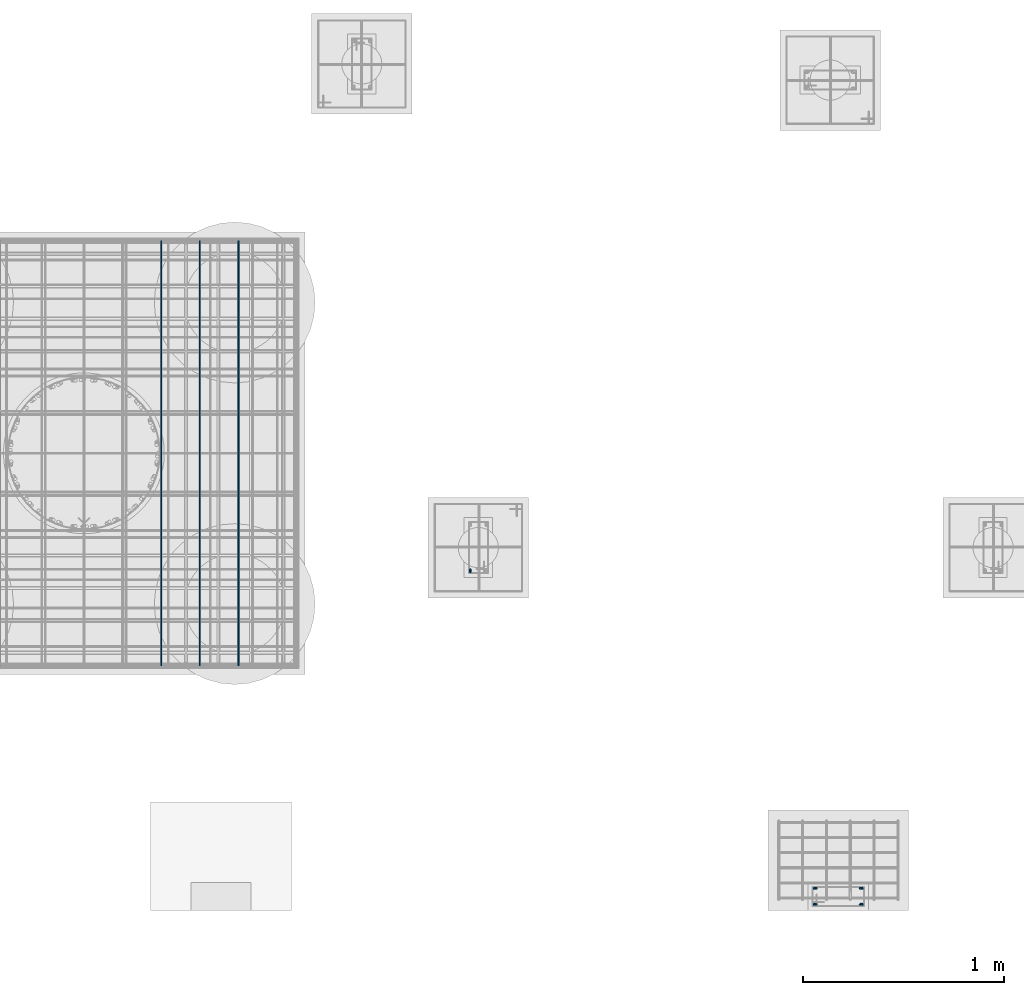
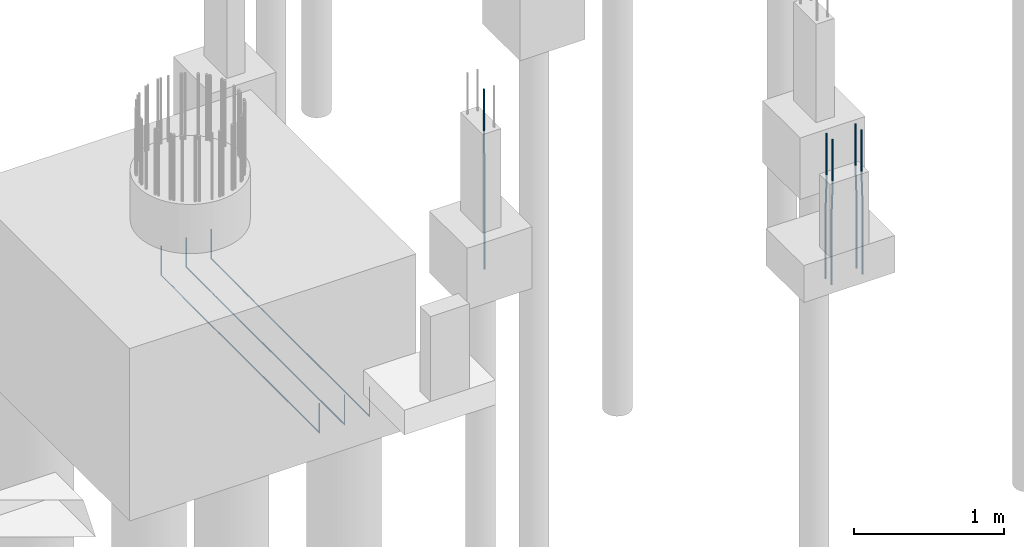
# One storey, part 14 of 119: 8 reinforcing bars.
"""IFC4 building model written with IfcOpenShell, lengths in centimetres."""

from ifc_helpers import new_model, entity, si_unit, derived_unit, frame, origin_with_axes, place, context, project, spatial, element, save


model = new_model("IFC4")

# Units and contexts
model_context = context("Model", 3, precision=1e-05, world=origin_with_axes(), identifier="Body")
ifc_project = project(units=[si_unit("LENGTHUNIT", "METRE", prefix="CENTI"), si_unit("VOLUMEUNIT", "CUBIC_METRE"), si_unit("AREAUNIT", "SQUARE_METRE"), si_unit("POWERUNIT", "WATT"), si_unit("LUMINOUSFLUXUNIT", "LUMEN"), si_unit("ELECTRICCURRENTUNIT", "AMPERE"), si_unit("PRESSUREUNIT", "PASCAL", prefix="KILO"), si_unit("MASSUNIT", "GRAM", prefix="KILO"), si_unit("PLANEANGLEUNIT", "RADIAN"), derived_unit("VOLUMETRICFLOWRATEUNIT", [(si_unit("LENGTHUNIT", "METRE"), 3), (si_unit("TIMEUNIT", "SECOND"), -1)])], contexts=[model_context])

# Site, building, storey
site_placement = place(None, frame((-4000.0, 0.0, 0.0), z_axis=(0.0, 0.0, 1.0), x_axis=(1.0, 0.0, 0.0)))
site = spatial("IfcSite", under=ifc_project, at=site_placement, Name="PADRÃO")
building_placement = place(site_placement, frame((0.0, 0.0, -14.0)))
building = spatial("IfcBuilding", under=site, at=building_placement, Name="CRECHE PRÉ-ESCOLA TIPO 2")
storey_placement = place(building_placement, origin_with_axes())
storey = spatial("IfcBuildingStorey", under=building, at=storey_placement, Name="FUNDAÇÃO", CompositionType="ELEMENT", Elevation=-14.0)

# Reinforcing bars
for number, where, z_axis, x_axis, name in (
    (1, (2462.18909090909, 229.39, -139.213841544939), (0.0, 0.0, 1.0), (1.0, 0.0, 0.0), "P151 - Blocos (distribuição)"),
    (2, (2442.96181818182, 229.39, -139.213841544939), (0.0, 0.0, 1.0), (1.0, 0.0, 0.0), "P151 - Blocos (distribuição)"),
    (3, (2423.73454545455, 229.39, -139.213841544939), (0.0, 0.0, 1.0), (1.0, 0.0, 0.0), "P151 - Blocos (distribuição)"),
):
    element("IfcReinforcingBar", number, at=place(storey_placement, frame(where, z_axis=z_axis, x_axis=x_axis)), inside=storey, Name=name, BarLength=0.0, CrossSectionArea=3.1172453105e-05, NominalDiameter=0.63, PredefinedType="MAIN", context=model_context, shape_type="AdvancedSweptSolid", body=[
        entity("IfcSweptDiskSolid", entity("IfcCompositeCurve", [entity("IfcCompositeCurveSegment", "CONTINUOUS", True, entity("IfcPolyline", [entity("IfcCartesianPoint", [0.0, 105.435, 0.0]), entity("IfcCartesianPoint", [0.0, 105.435, -23.7311584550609])])), entity("IfcCompositeCurveSegment", "CONTINUOUS", True, entity("IfcPolyline", [entity("IfcCartesianPoint", [0.0, 105.435, -23.7311584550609]), entity("IfcCartesianPoint", [0.0, -105.435, -23.7311584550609])])), entity("IfcCompositeCurveSegment", "CONTINUOUS", True, entity("IfcPolyline", [entity("IfcCartesianPoint", [0.0, -105.435, -23.7311584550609]), entity("IfcCartesianPoint", [0.0, -105.435, 0.0])]))], False), 0.315),
    ])
reinforcing_bar_placement = place(storey_placement, frame((2577.46, 171.0, 33.3573001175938), z_axis=(0.0, 0.0, 1.0), x_axis=(1.0, 0.0, 0.0)))
element("IfcReinforcingBar", 4, at=reinforcing_bar_placement, inside=storey, Name="P152 - Longitudinal", BarLength=0.0, CrossSectionArea=7.853981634e-05, NominalDiameter=1.0, PredefinedType="MAIN", context=model_context, shape_type="AdvancedSweptSolid", body=[
    entity("IfcSweptDiskSolid", entity("IfcCompositeCurve", [entity("IfcCompositeCurveSegment", "CONTINUOUS", True, entity("IfcPolyline", [entity("IfcCartesianPoint", [0.0, -0.5, -145.357300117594]), entity("IfcCartesianPoint", [0.0, -0.5, -63.3573001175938])])), entity("IfcCompositeCurveSegment", "CONTINUOUS", True, entity("IfcPolyline", [entity("IfcCartesianPoint", [0.0, -0.5, -63.3573001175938]), entity("IfcCartesianPoint", [0.0, 0.5, -33.3573001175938])])), entity("IfcCompositeCurveSegment", "CONTINUOUS", True, entity("IfcPolyline", [entity("IfcCartesianPoint", [0.0, 0.5, -33.3573001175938]), entity("IfcCartesianPoint", [0.0, 0.5, 0.0])]))], False), 0.5),
])
for number, where, z_axis, x_axis, name in (
    (5, (2772.0, 5.0, 33.3573001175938), (0.0, 0.0, 1.0), (1.0, 0.0, 0.0), "P164 - Longitudinal"),
    (6, (2772.0, 13.0, 33.3573001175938), (0.0, 0.0, 1.0), (1.0, 0.0, 0.0), "P164 - Longitudinal"),
):
    element("IfcReinforcingBar", number, at=place(storey_placement, frame(where, z_axis=z_axis, x_axis=x_axis)), inside=storey, Name=name, BarLength=0.0, CrossSectionArea=7.853981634e-05, NominalDiameter=1.0, PredefinedType="MAIN", context=model_context, shape_type="AdvancedSweptSolid", body=[
        entity("IfcSweptDiskSolid", entity("IfcCompositeCurve", [entity("IfcCompositeCurveSegment", "CONTINUOUS", True, entity("IfcPolyline", [entity("IfcCartesianPoint", [0.5, 0.0, -117.357300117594]), entity("IfcCartesianPoint", [0.5, 0.0, -63.3573001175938])])), entity("IfcCompositeCurveSegment", "CONTINUOUS", True, entity("IfcPolyline", [entity("IfcCartesianPoint", [0.5, 0.0, -63.3573001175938]), entity("IfcCartesianPoint", [-0.5, 0.0, -33.3573001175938])])), entity("IfcCompositeCurveSegment", "CONTINUOUS", True, entity("IfcPolyline", [entity("IfcCartesianPoint", [-0.5, 0.0, -33.3573001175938]), entity("IfcCartesianPoint", [-0.5, 0.0, 0.0])]))], False), 0.5),
    ])
for number, where, z_axis, x_axis, name in (
    (7, (2749.0, 5.0, 33.3573001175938), (0.0, 0.0, 1.0), (1.0, 0.0, 0.0), "P164 - Longitudinal"),
    (8, (2749.0, 13.0, 33.3573001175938), (0.0, 0.0, 1.0), (1.0, 0.0, 0.0), "P164 - Longitudinal"),
):
    element("IfcReinforcingBar", number, at=place(storey_placement, frame(where, z_axis=z_axis, x_axis=x_axis)), inside=storey, Name=name, BarLength=0.0, CrossSectionArea=7.853981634e-05, NominalDiameter=1.0, PredefinedType="MAIN", context=model_context, shape_type="AdvancedSweptSolid", body=[
        entity("IfcSweptDiskSolid", entity("IfcCompositeCurve", [entity("IfcCompositeCurveSegment", "CONTINUOUS", True, entity("IfcPolyline", [entity("IfcCartesianPoint", [-0.5, 0.0, -117.357300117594]), entity("IfcCartesianPoint", [-0.5, 0.0, -63.3573001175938])])), entity("IfcCompositeCurveSegment", "CONTINUOUS", True, entity("IfcPolyline", [entity("IfcCartesianPoint", [-0.5, 0.0, -63.3573001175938]), entity("IfcCartesianPoint", [0.5, 0.0, -33.3573001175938])])), entity("IfcCompositeCurveSegment", "CONTINUOUS", True, entity("IfcPolyline", [entity("IfcCartesianPoint", [0.5, 0.0, -33.3573001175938]), entity("IfcCartesianPoint", [0.5, 0.0, 0.0])]))], False), 0.5),
    ])

save(model, "model.ifc")
